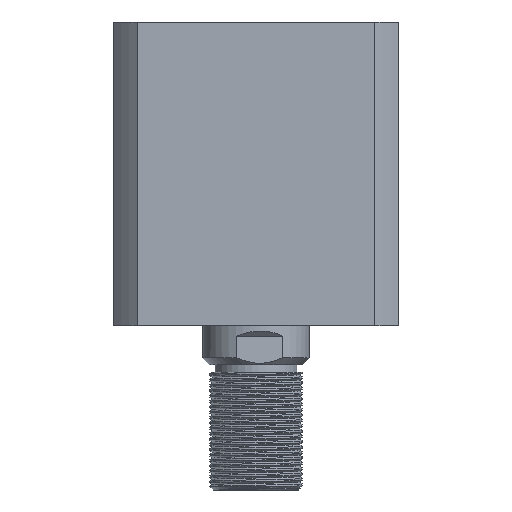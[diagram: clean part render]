
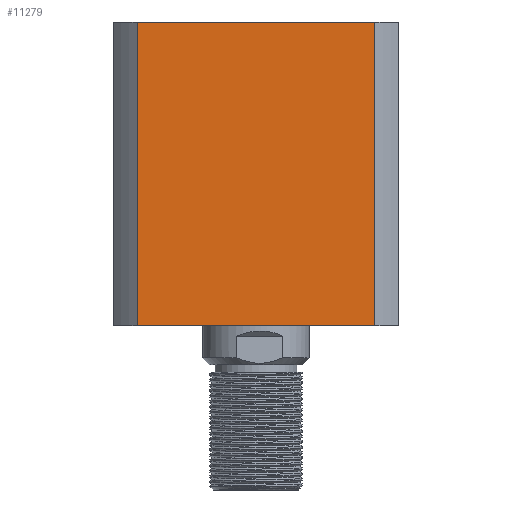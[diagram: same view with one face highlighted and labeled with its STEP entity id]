
A CAD part, left-side view. The second image highlights one B-rep face of the part: STEP entity #11279.
In plain terms, the highlighted planar face has unit normal (-1, 0, 0).
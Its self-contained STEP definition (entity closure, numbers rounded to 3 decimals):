
#836 = DIRECTION ( 'NONE',  ( 0., -1., 0. ) ) ;
#941 = LINE ( 'NONE', #7829, #12841 ) ;
#1288 = DIRECTION ( 'NONE',  ( 0., -1., 0. ) ) ;
#1425 = VECTOR ( 'NONE', #8342, 1000. ) ;
#2389 = EDGE_CURVE ( 'NONE', #8208, #17031, #15056, .T. ) ;
#2904 = DIRECTION ( 'NONE',  ( 1., 0., 0. ) ) ;
#3696 = LINE ( 'NONE', #5632, #11090 ) ;
#3740 = VERTEX_POINT ( 'NONE', #13775 ) ;
#3790 = EDGE_CURVE ( 'NONE', #3740, #10323, #13728, .T. ) ;
#5236 = FACE_OUTER_BOUND ( 'NONE', #11136, .T. ) ;
#5632 = CARTESIAN_POINT ( 'NONE',  ( -40., 33.226, 42.5 ) ) ;
#6500 = CARTESIAN_POINT ( 'NONE',  ( -40., 33.226, 42.5 ) ) ;
#6743 = EDGE_CURVE ( 'NONE', #8208, #3740, #3696, .T. ) ;
#7829 = CARTESIAN_POINT ( 'NONE',  ( -40., 33.226, -42.5 ) ) ;
#8150 = CARTESIAN_POINT ( 'NONE',  ( -40., -33.226, 42.5 ) ) ;
#8208 = VERTEX_POINT ( 'NONE', #14869 ) ;
#8342 = DIRECTION ( 'NONE',  ( 0., 0., -1. ) ) ;
#8637 = CARTESIAN_POINT ( 'NONE',  ( -40., 33.226, -42.5 ) ) ;
#9183 = DIRECTION ( 'NONE',  ( 0., 0., -1. ) ) ;
#10323 = VERTEX_POINT ( 'NONE', #12535 ) ;
#11090 = VECTOR ( 'NONE', #1288, 1000. ) ;
#11136 = EDGE_LOOP ( 'NONE', ( #11851, #12465, #11850, #13354 ) ) ;
#11279 = ADVANCED_FACE ( 'NONE', ( #5236 ), #14031, .F. ) ;
#11380 = VECTOR ( 'NONE', #9183, 1000. ) ;
#11850 = ORIENTED_EDGE ( 'NONE', *, *, #6743, .F. ) ;
#11851 = ORIENTED_EDGE ( 'NONE', *, *, #15849, .T. ) ;
#11925 = AXIS2_PLACEMENT_3D ( 'NONE', #15538, #2904, #14145 ) ;
#12465 = ORIENTED_EDGE ( 'NONE', *, *, #3790, .F. ) ;
#12535 = CARTESIAN_POINT ( 'NONE',  ( -40., -33.226, -42.5 ) ) ;
#12841 = VECTOR ( 'NONE', #836, 1000. ) ;
#13354 = ORIENTED_EDGE ( 'NONE', *, *, #2389, .T. ) ;
#13728 = LINE ( 'NONE', #8150, #1425 ) ;
#13775 = CARTESIAN_POINT ( 'NONE',  ( -40., -33.226, 42.5 ) ) ;
#14031 = PLANE ( 'NONE',  #11925 ) ;
#14145 = DIRECTION ( 'NONE',  ( 0., 1., 0. ) ) ;
#14869 = CARTESIAN_POINT ( 'NONE',  ( -40., 33.226, 42.5 ) ) ;
#15056 = LINE ( 'NONE', #6500, #11380 ) ;
#15538 = CARTESIAN_POINT ( 'NONE',  ( -40., 33.226, 42.5 ) ) ;
#15849 = EDGE_CURVE ( 'NONE', #17031, #10323, #941, .T. ) ;
#17031 = VERTEX_POINT ( 'NONE', #8637 ) ;
